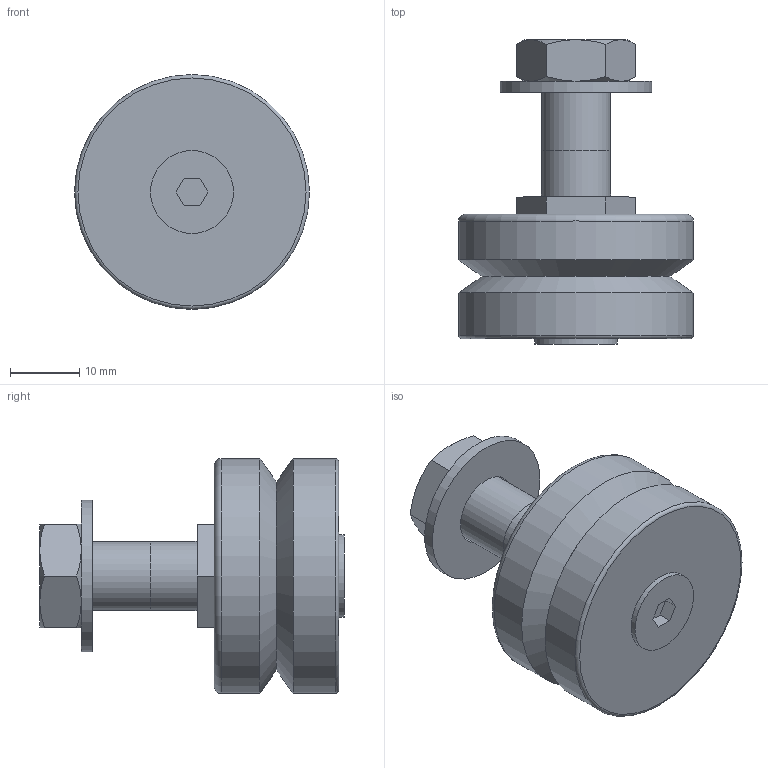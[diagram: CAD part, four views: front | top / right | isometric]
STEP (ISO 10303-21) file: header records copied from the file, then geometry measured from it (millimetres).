
FILE_DESCRIPTION(('STEP AP203'),'1');
FILE_NAME('//192.168.1.1/share/s-4 技術開発/s-4-4_CAD/s-4-4-6_見直し、確認済み/013 修正済み(済)/ジャーナル_TOP/NAL/NAL-34-C.step','2022-03-11T07:29:37',(' '),(' '),'Spatial InterOp 3D',' ',' ');
FILE_SCHEMA(('CONFIG_CONTROL_DESIGN'));
Length unit declared in the file: millimetre
Products named in the file (3): 1; 2; 3
Bounding box: 34 x 44.05 x 34 mm (x, y, z)
Volume: 19093 mm3; surface area: 6317.7 mm2
Topology: 3 solids, 3 shells, 52 faces, 112 edges, 69 vertices
Faces by surface type: plane 27, cone 14, cylinder 8, torus 2, sphere 1
Full cylindrical faces by diameter (mm): 8.5 x1, 10 x2, 10.5 x1, 12 x1, 22 x1, 34 x2
Entity records: 1526 total; most frequent: CARTESIAN_POINT 353, DIRECTION 212, ORIENTED_EDGE 192, EDGE_CURVE 96, AXIS2_PLACEMENT_3D 85, EDGE_LOOP 72, VERTEX_POINT 66, FACE_OUTER_BOUND 62
